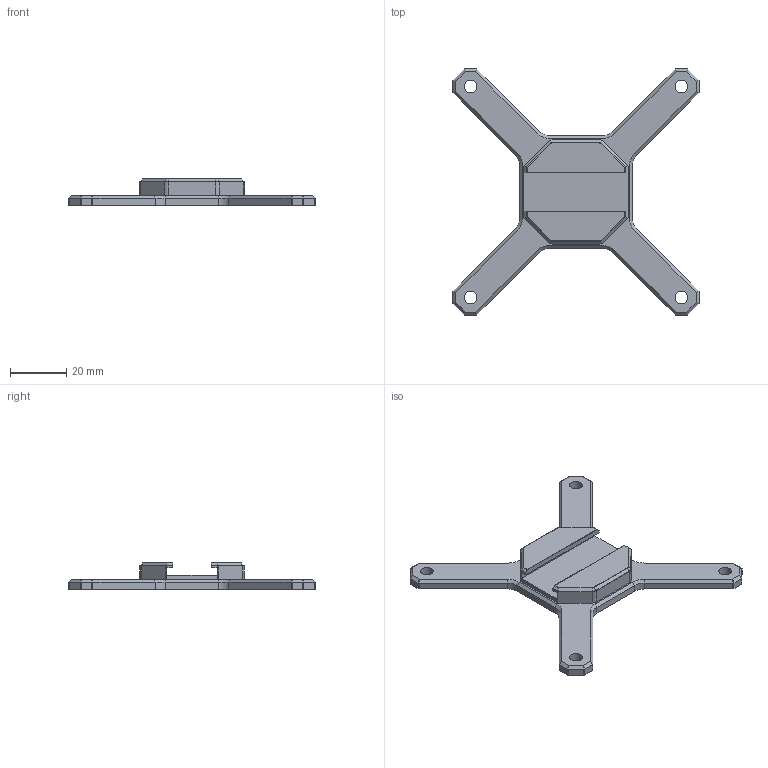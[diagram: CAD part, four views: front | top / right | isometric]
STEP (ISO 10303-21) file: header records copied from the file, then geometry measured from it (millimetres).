
FILE_DESCRIPTION(/* description */ (''),/* implementation_level */ '2;1');
FILE_NAME(/* name */ 'VESA',/* time_stamp */ '2023-02-14T16:50:25+08:00',/* author */ (''),/* organization */ (''),/* preprocessor_version */ 'ST-DEVELOPER v16.5',/* originating_system */ '',/* authorisation */ '');
FILE_SCHEMA (('CONFIG_CONTROL_DESIGN'));
Length unit declared in the file: millimetre
Products named in the file (1): Document
Bounding box: 87.73 x 87.73 x 9.5 mm (x, y, z)
Volume: 15224.2 mm3; surface area: 8863.8 mm2
Topology: 1 solids, 1 shells, 203 faces, 516 edges, 316 vertices
Faces by surface type: cylinder 90, plane 77, bspline 36
Entity records: 6105 total; most frequent: CARTESIAN_POINT 2721, ORIENTED_EDGE 1032, EDGE_CURVE 516, VERTEX_POINT 316, B_SPLINE_CURVE_WITH_KNOTS 300, EDGE_LOOP 212, ADVANCED_FACE 203, FACE_OUTER_BOUND 203
